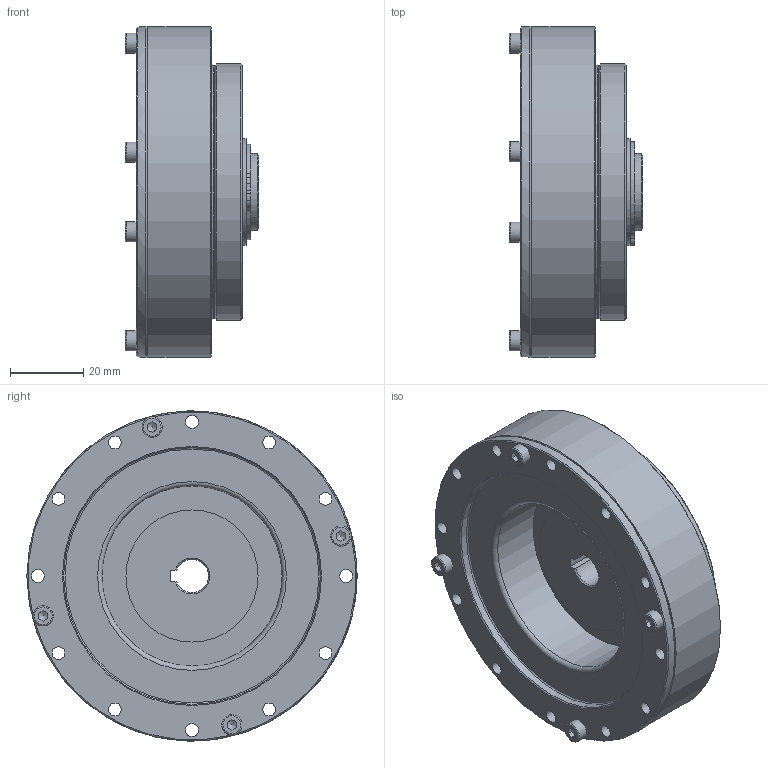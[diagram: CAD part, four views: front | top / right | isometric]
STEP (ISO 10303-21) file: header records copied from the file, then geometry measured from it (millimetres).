
FILE_DESCRIPTION(/* description */ (''),/* implementation_level */ '2;1');
FILE_NAME(/* name */ 'S:\TB00F\研發課二組\機密級\97.\X2\540C4EC151714EAB5340\X0\ (機密級)\H11\欣怡\2023專案追蹤\2.型錄\模型\\X2\5B987DB2\X0\3D檔(NEW)\DSH-PO(14-40)\DSH-20-XX-PO.stp',/* time_stamp */ '2024-10-23T18:26:30+08:00',/* author */ ('bb1128.zheng'),/* organization */ (''),/* preprocessor_version */ 'ST-DEVELOPER v15.2',/* originating_system */ 'Autodesk Inventor 2014',/* authorisation */ '');
FILE_SCHEMA (('AUTOMOTIVE_DESIGN { 1 0 10303 214 3 1 1 }'));
Length unit declared in the file: centimetre
Products named in the file (1): DSH-20-XX-PO
Bounding box: 36.5 x 90 x 90 mm (x, y, z)
Volume: 123405.9 mm3; surface area: 32609.4 mm2
Topology: 1 solids, 1 shells, 456 faces, 1118 edges, 702 vertices
Faces by surface type: cylinder 186, plane 151, torus 57, cone 39, sphere 23
Full cylindrical faces by diameter (mm): 2 x2, 2.459 x16, 3.5 x40, 5.5 x8, 6.5 x4, 20 x1, 21 x1, 29 x2, 36 x1, 38.15 x1, 46.64 x1, 49.07 x2, 69 x1, 70 x2, 78 x1, 90 x2
Entity records: 12327 total; most frequent: DIRECTION 2294, CARTESIAN_POINT 1999, ORIENTED_EDGE 1790, AXIS2_PLACEMENT_3D 1040, EDGE_CURVE 849, EDGE_LOOP 676, VERTEX_POINT 589, CIRCLE 583
